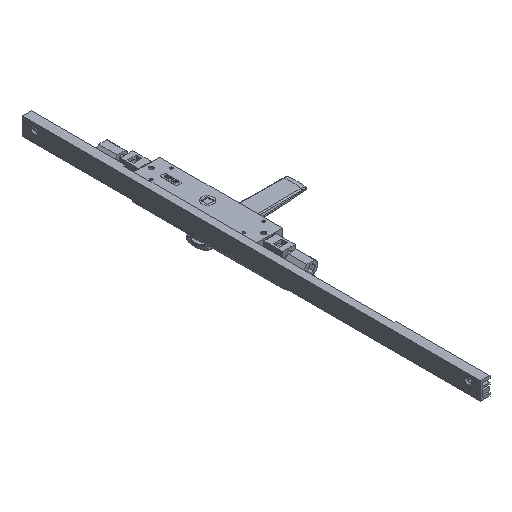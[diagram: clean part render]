
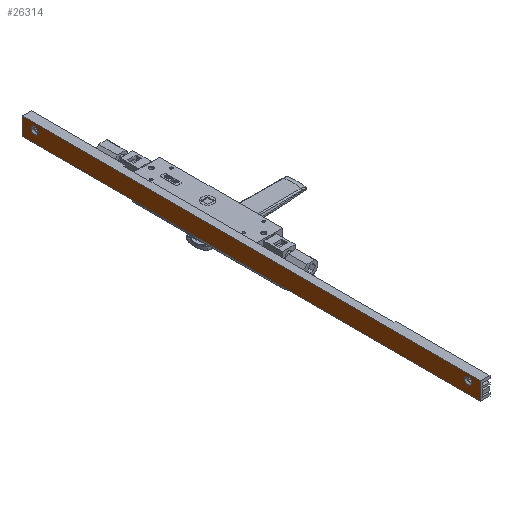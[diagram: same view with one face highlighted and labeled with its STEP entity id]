
A CAD part, isometric view. The second image highlights one B-rep face of the part: STEP entity #26314.
In plain terms, the highlighted planar face has unit normal (-1, 0, 0) as drawn and (0, 1, 0) by its records, which use the part's own axes.
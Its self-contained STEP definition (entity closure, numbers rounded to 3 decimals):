
#1054 = CARTESIAN_POINT ( 'NONE',  ( -1.7, 12.4, 0. ) ) ;
#1156 = CARTESIAN_POINT ( 'NONE',  ( 11.8, 12.4, 10.784 ) ) ;
#1558 = VECTOR ( 'NONE', #8970, 1000. ) ;
#1578 = DIRECTION ( 'NONE',  ( 0., 0., -1. ) ) ;
#1767 = VERTEX_POINT ( 'NONE', #28298 ) ;
#2657 = ORIENTED_EDGE ( 'NONE', *, *, #10626, .F. ) ;
#2679 = ORIENTED_EDGE ( 'NONE', *, *, #25945, .F. ) ;
#2860 = ORIENTED_EDGE ( 'NONE', *, *, #11336, .F. ) ;
#2958 = CARTESIAN_POINT ( 'NONE',  ( 11.8, 12.4, 15. ) ) ;
#3761 = DIRECTION ( 'NONE',  ( 0., 0., 1. ) ) ;
#4123 = LINE ( 'NONE', #11329, #1558 ) ;
#5161 = DIRECTION ( 'NONE',  ( 0., 1., 0. ) ) ;
#5423 = CARTESIAN_POINT ( 'NONE',  ( 11.8, 12.4, 533.216 ) ) ;
#6203 = FACE_BOUND ( 'NONE', #12826, .T. ) ;
#6227 = VERTEX_POINT ( 'NONE', #18843 ) ;
#6349 = FACE_BOUND ( 'NONE', #17086, .T. ) ;
#6726 = CARTESIAN_POINT ( 'NONE',  ( 11.8, 12.4, 529. ) ) ;
#7012 = VECTOR ( 'NONE', #1578, 1000. ) ;
#7252 = DIRECTION ( 'NONE',  ( 0., 0., -1. ) ) ;
#8085 = FACE_OUTER_BOUND ( 'NONE', #27696, .T. ) ;
#8345 = CARTESIAN_POINT ( 'NONE',  ( 19.3, 12.4, 0. ) ) ;
#8970 = DIRECTION ( 'NONE',  ( -1., 0., 0. ) ) ;
#9070 = EDGE_CURVE ( 'NONE', #1767, #12195, #19186, .T. ) ;
#9086 = LINE ( 'NONE', #13194, #7012 ) ;
#9099 = AXIS2_PLACEMENT_3D ( 'NONE', #2958, #5161, #12537 ) ;
#10439 = ORIENTED_EDGE ( 'NONE', *, *, #13263, .F. ) ;
#10626 = EDGE_CURVE ( 'NONE', #13176, #17864, #22712, .T. ) ;
#10945 = CARTESIAN_POINT ( 'NONE',  ( 11.8, 12.4, 15. ) ) ;
#11037 = DIRECTION ( 'NONE',  ( 0., 1., 0. ) ) ;
#11072 = CARTESIAN_POINT ( 'NONE',  ( 20.8, 12.4, 544. ) ) ;
#11329 = CARTESIAN_POINT ( 'NONE',  ( 20.8, 12.4, 0. ) ) ;
#11336 = EDGE_CURVE ( 'NONE', #22028, #1767, #12664, .T. ) ;
#12195 = VERTEX_POINT ( 'NONE', #1054 ) ;
#12537 = DIRECTION ( 'NONE',  ( 0., 0., 1. ) ) ;
#12664 = LINE ( 'NONE', #19861, #13643 ) ;
#12826 = EDGE_LOOP ( 'NONE', ( #10439, #19962 ) ) ;
#13058 = CIRCLE ( 'NONE', #30539, 4.216 ) ;
#13176 = VERTEX_POINT ( 'NONE', #1156 ) ;
#13194 = CARTESIAN_POINT ( 'NONE',  ( 19.3, 12.4, 544. ) ) ;
#13263 = EDGE_CURVE ( 'NONE', #15107, #6227, #22514, .T. ) ;
#13643 = VECTOR ( 'NONE', #15473, 1000. ) ;
#14276 = ORIENTED_EDGE ( 'NONE', *, *, #15714, .T. ) ;
#15107 = VERTEX_POINT ( 'NONE', #5423 ) ;
#15473 = DIRECTION ( 'NONE',  ( -1., 0., 0. ) ) ;
#15501 = DIRECTION ( 'NONE',  ( 0., 0., 1. ) ) ;
#15626 = DIRECTION ( 'NONE',  ( 1., 0., 0. ) ) ;
#15714 = EDGE_CURVE ( 'NONE', #21715, #12195, #4123, .T. ) ;
#15765 = DIRECTION ( 'NONE',  ( 0., -1., 0. ) ) ;
#15819 = VECTOR ( 'NONE', #7252, 1000. ) ;
#17086 = EDGE_LOOP ( 'NONE', ( #2679, #2657 ) ) ;
#17864 = VERTEX_POINT ( 'NONE', #30428 ) ;
#18209 = EDGE_CURVE ( 'NONE', #6227, #15107, #23677, .T. ) ;
#18843 = CARTESIAN_POINT ( 'NONE',  ( 11.8, 12.4, 524.784 ) ) ;
#18891 = ORIENTED_EDGE ( 'NONE', *, *, #9070, .F. ) ;
#19186 = LINE ( 'NONE', #28714, #15819 ) ;
#19678 = AXIS2_PLACEMENT_3D ( 'NONE', #6726, #23355, #3761 ) ;
#19861 = CARTESIAN_POINT ( 'NONE',  ( 20.8, 12.4, 544. ) ) ;
#19962 = ORIENTED_EDGE ( 'NONE', *, *, #18209, .F. ) ;
#20009 = PLANE ( 'NONE',  #23056 ) ;
#20596 = DIRECTION ( 'NONE',  ( 0., 0., 1. ) ) ;
#21715 = VERTEX_POINT ( 'NONE', #8345 ) ;
#22028 = VERTEX_POINT ( 'NONE', #26666 ) ;
#22514 = CIRCLE ( 'NONE', #26485, 4.216 ) ;
#22712 = CIRCLE ( 'NONE', #9099, 4.216 ) ;
#23056 = AXIS2_PLACEMENT_3D ( 'NONE', #11072, #15765, #15626 ) ;
#23166 = DIRECTION ( 'NONE',  ( 0., 1., 0. ) ) ;
#23269 = ORIENTED_EDGE ( 'NONE', *, *, #26730, .T. ) ;
#23355 = DIRECTION ( 'NONE',  ( 0., 1., 0. ) ) ;
#23677 = CIRCLE ( 'NONE', #19678, 4.216 ) ;
#25280 = CARTESIAN_POINT ( 'NONE',  ( 11.8, 12.4, 529. ) ) ;
#25945 = EDGE_CURVE ( 'NONE', #17864, #13176, #13058, .T. ) ;
#26314 = ADVANCED_FACE ( 'NONE', ( #6349, #6203, #8085 ), #20009, .F. ) ;
#26485 = AXIS2_PLACEMENT_3D ( 'NONE', #25280, #11037, #20596 ) ;
#26666 = CARTESIAN_POINT ( 'NONE',  ( 19.3, 12.4, 544. ) ) ;
#26730 = EDGE_CURVE ( 'NONE', #22028, #21715, #9086, .T. ) ;
#27696 = EDGE_LOOP ( 'NONE', ( #2860, #23269, #14276, #18891 ) ) ;
#28298 = CARTESIAN_POINT ( 'NONE',  ( -1.7, 12.4, 544. ) ) ;
#28714 = CARTESIAN_POINT ( 'NONE',  ( -1.7, 12.4, 544. ) ) ;
#30428 = CARTESIAN_POINT ( 'NONE',  ( 11.8, 12.4, 19.216 ) ) ;
#30539 = AXIS2_PLACEMENT_3D ( 'NONE', #10945, #23166, #15501 ) ;
